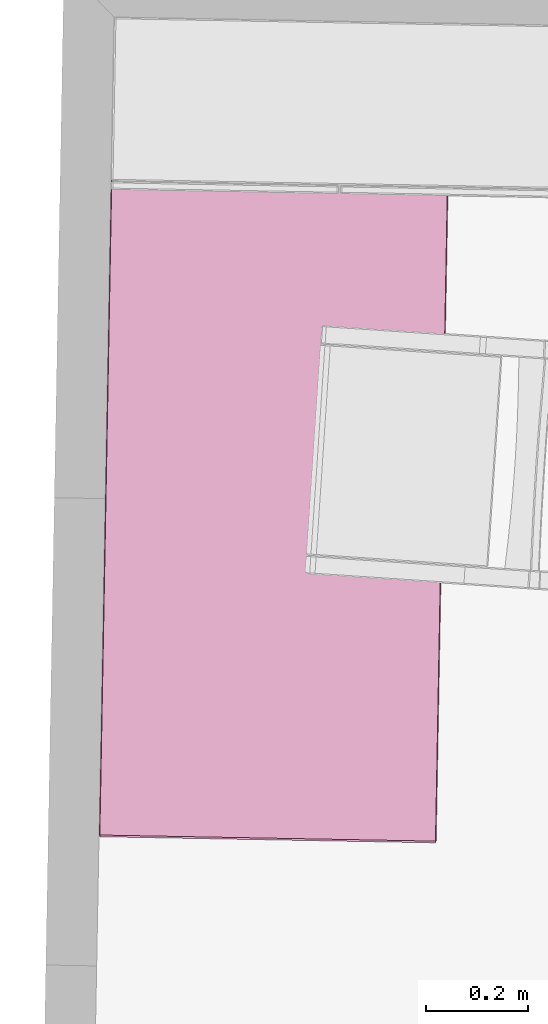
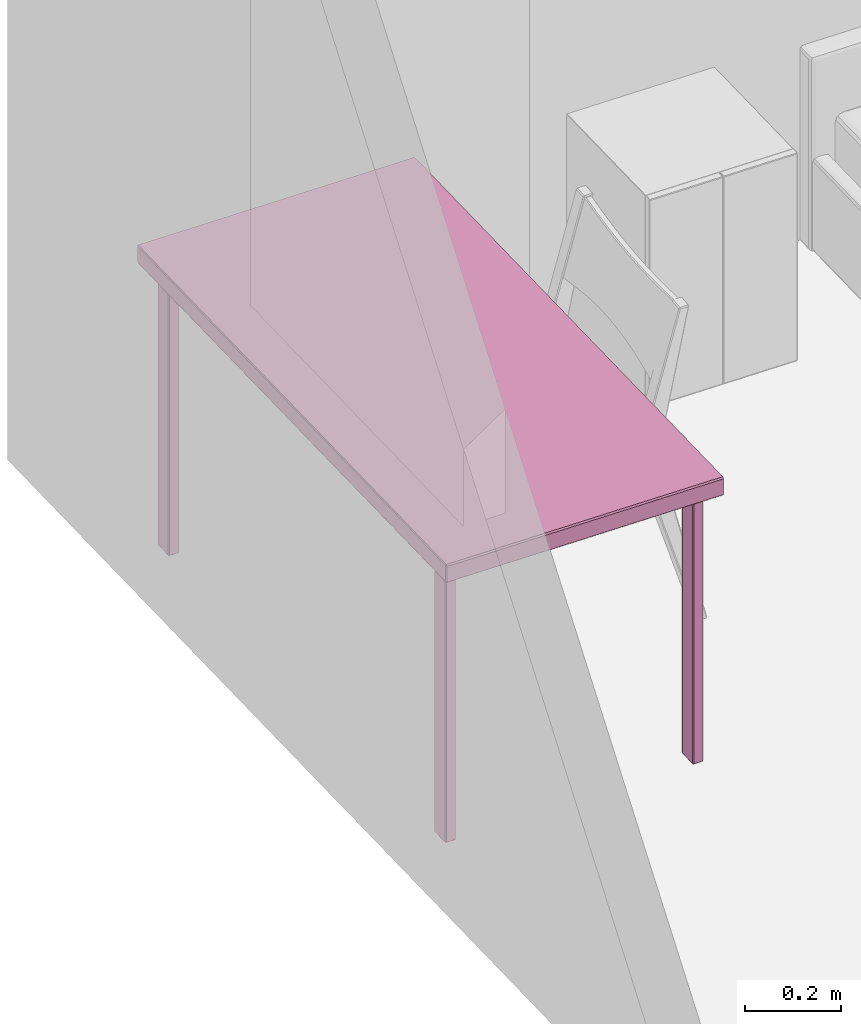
# One storey, part 3 of 9: 1 furnishing.
"""IFC2X3 building model written with IfcOpenShell, lengths in metres."""

from ifc_helpers import new_model, si_unit, frame, origin_with_axes, place, context, project, spatial, faceted_brep, type_object, element, save


model = new_model("IFC2X3")

# Units and contexts
model_context = context("Model", 3, precision=1e-05, world=origin_with_axes())
ifc_project = project(units=[si_unit("AREAUNIT", "SQUARE_METRE"), si_unit("LENGTHUNIT", "METRE")], contexts=[model_context])

# Site, building, storey, space
site_placement = place(None, origin_with_axes())
site = spatial("IfcSite", under=ifc_project, at=site_placement, Name="Site", CompositionType="ELEMENT")
building_placement = place(site_placement, origin_with_axes())
building = spatial("IfcBuilding", under=site, at=building_placement, Name="Building", CompositionType="ELEMENT")
storey_placement = place(building_placement, frame((0.0, 0.0, 5.74363407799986), z_axis=(0.0, 0.0, 1.0), x_axis=(1.0, 0.0, 0.0)))
storey = spatial("IfcBuildingStorey", under=building, at=storey_placement, Name="Story 2", CompositionType="ELEMENT", Elevation=5.7436338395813)
space_placement = place(storey_placement, frame((-6.7996530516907, -0.801034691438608, 0.0), z_axis=(0.0, 0.0, 1.0), x_axis=(1.0, 0.0, 0.0)))
space = spatial("IfcSpace", under=storey, at=space_placement, Name="010", CompositionType="ELEMENT", InteriorOrExteriorSpace="INTERNAL")

# Furnishing
furniture_type = type_object("IfcFurnitureType", Name="a38ef82e-2b45-42b0-add8-bba51ac43364")
furnishing_placement = place(space_placement, frame((-0.477446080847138, 2.51847124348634, 0.373691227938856), z_axis=(0.0, 0.0, 0.999999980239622), x_axis=(0.999834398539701, -0.0181982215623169, 0.0)))
element("IfcFurnishingElement", 1, at=furnishing_placement, inside=space, type_object=furniture_type, Name="Table", ObjectType="Table", context=model_context, shape_type="Brep", body=[
    faceted_brep([(0.3306, 0.6695, 0.3303), (-0.3306, 0.6695, 0.3303), (0.3306, 0.6695, 0.3704), (-0.3306, 0.6695, 0.3704), (0.3306, 0.6695, 0.3704), (-0.3306, 0.6695, 0.3303), (0.2834, -0.6199, 0.3387), (0.2834, -0.576, 0.3387), (0.2834, -0.6199, -0.3704), (0.2834, -0.576, -0.3704), (0.2834, -0.6199, -0.3704), (0.2834, -0.576, 0.3387), (0.3068, -0.6232, 0.3387), (0.2851, -0.6232, 0.3387), (0.3068, -0.6232, -0.3704), (0.285, -0.6232, -0.3704), (0.3068, -0.6232, -0.3704), (0.2851, -0.6232, 0.3387), (0.3085, -0.576, 0.3387), (0.3085, -0.6199, 0.3387), (0.3085, -0.576, -0.3704), (0.3085, -0.6199, -0.3704), (0.3085, -0.576, -0.3704), (0.3085, -0.6199, 0.3387), (0.2851, -0.5726, 0.3387), (0.3068, -0.5726, 0.3387), (0.285, -0.5726, -0.3704), (0.3068, -0.5726, -0.3704), (0.285, -0.5726, -0.3704), (0.3068, -0.5726, 0.3387), (0.2834, 0.6199, 0.3387), (0.2834, 0.6199, -0.3704), (0.2834, 0.5759, 0.3387), (0.2834, 0.5759, -0.3704), (0.2834, 0.5759, 0.3387), (0.2834, 0.6199, -0.3704), (0.3068, 0.6232, 0.3387), (0.3068, 0.6232, -0.3704), (0.2851, 0.6232, 0.3387), (0.285, 0.6232, -0.3704), (0.2851, 0.6232, 0.3387), (0.3068, 0.6232, -0.3704), (0.3085, 0.5759, 0.3387), (0.3085, 0.5759, -0.3704), (0.3085, 0.6199, 0.3387), (0.3085, 0.6199, -0.3704), (0.3085, 0.6199, 0.3387), (0.3085, 0.5759, -0.3704), (0.2851, 0.5726, 0.3387), (0.285, 0.5726, -0.3704), (0.3068, 0.5726, 0.3387), (0.3068, 0.5726, -0.3704), (0.3068, 0.5726, 0.3387), (0.285, 0.5726, -0.3704), (0.3322, 0.6661, 0.3303), (0.3322, 0.6661, 0.3704), (0.3322, -0.6661, 0.3303), (0.3322, -0.6661, 0.3704), (0.3322, -0.6661, 0.3303), (0.3322, 0.6661, 0.3704), (-0.3322, 0.6661, 0.3704), (-0.3322, 0.6661, 0.3303), (-0.3322, -0.6661, 0.3704), (-0.3322, -0.6661, 0.3303), (-0.3322, -0.6661, 0.3704), (-0.3322, 0.6661, 0.3303), (-0.2834, -0.6199, 0.3387), (-0.2834, -0.6199, -0.3704), (-0.2834, -0.576, 0.3387), (-0.2834, -0.576, -0.3704), (-0.2834, -0.576, 0.3387), (-0.2834, -0.6199, -0.3704), (-0.3068, -0.6232, 0.3387), (-0.3068, -0.6232, -0.3704), (-0.285, -0.6232, 0.3387), (-0.285, -0.6232, -0.3704), (-0.285, -0.6232, 0.3387), (-0.3068, -0.6232, -0.3704), (-0.3085, -0.576, 0.3387), (-0.3085, -0.576, -0.3704), (-0.3085, -0.6199, 0.3387), (-0.3085, -0.6199, -0.3704), (-0.3085, -0.6199, 0.3387), (-0.3085, -0.576, -0.3704), (-0.285, -0.5726, 0.3387), (-0.285, -0.5726, -0.3704), (-0.3068, -0.5726, 0.3387), (-0.3068, -0.5726, -0.3704), (-0.3068, -0.5726, 0.3387), (-0.285, -0.5726, -0.3704), (-0.2834, 0.6199, 0.3387), (-0.2834, 0.5759, 0.3387), (-0.2834, 0.6199, -0.3704), (-0.2834, 0.5759, -0.3704), (-0.2834, 0.6199, -0.3704), (-0.2834, 0.5759, 0.3387), (-0.3068, 0.6232, 0.3387), (-0.285, 0.6232, 0.3387), (-0.3068, 0.6232, -0.3704), (-0.285, 0.6232, -0.3704), (-0.3068, 0.6232, -0.3704), (-0.285, 0.6232, 0.3387), (-0.3085, 0.5759, 0.3387), (-0.3085, 0.6199, 0.3387), (-0.3085, 0.5759, -0.3704), (-0.3085, 0.6199, -0.3704), (-0.3085, 0.5759, -0.3704), (-0.3085, 0.6199, 0.3387), (-0.285, 0.5726, 0.3387), (-0.3068, 0.5726, 0.3387), (-0.285, 0.5726, -0.3704), (-0.3068, 0.5726, -0.3704), (-0.285, 0.5726, -0.3704), (-0.3068, 0.5726, 0.3387), (-0.3306, 0.6661, 0.3737), (-0.3306, -0.6661, 0.3737), (0.3306, 0.6661, 0.3737), (0.3306, -0.6661, 0.3737), (0.3306, 0.6661, 0.3737), (-0.3306, -0.6661, 0.3737), (0.3306, -0.6695, 0.3303), (0.3306, -0.6695, 0.3704), (-0.3306, -0.6695, 0.3303), (-0.3306, -0.6695, 0.3704), (-0.3306, -0.6695, 0.3303), (0.3306, -0.6695, 0.3704), (0.3306, -0.6661, 0.327), (-0.3306, -0.6661, 0.327), (0.3306, 0.6661, 0.327), (-0.3306, 0.6661, 0.327), (0.3306, 0.6661, 0.327), (-0.3306, -0.6661, 0.327), (0.3068, -0.6199, 0.342), (0.3068, -0.576, 0.342), (0.2851, -0.6199, 0.342), (0.2851, -0.576, 0.342), (0.2851, -0.6199, 0.342), (0.3068, -0.576, 0.342), (0.3068, -0.576, -0.3737), (0.3068, -0.6199, -0.3737), (0.285, -0.576, -0.3737), (0.285, -0.6199, -0.3737), (0.285, -0.576, -0.3737), (0.3068, -0.6199, -0.3737), (0.3068, 0.6199, -0.3737), (0.3068, 0.5759, -0.3737), (0.285, 0.6199, -0.3737), (0.285, 0.5759, -0.3737), (0.285, 0.6199, -0.3737), (0.3068, 0.5759, -0.3737), (0.3068, 0.5759, 0.342), (0.3068, 0.6199, 0.342), (0.2851, 0.5759, 0.342), (0.2851, 0.6199, 0.342), (0.2851, 0.5759, 0.342), (0.3068, 0.6199, 0.342), (-0.3068, -0.6199, -0.3737), (-0.3068, -0.576, -0.3737), (-0.285, -0.6199, -0.3737), (-0.285, -0.576, -0.3737), (-0.285, -0.6199, -0.3737), (-0.3068, -0.576, -0.3737), (-0.3068, -0.576, 0.342), (-0.3068, -0.6199, 0.342), (-0.285, -0.576, 0.342), (-0.285, -0.6199, 0.342), (-0.285, -0.576, 0.342), (-0.3068, -0.6199, 0.342), (-0.3068, 0.6199, 0.342), (-0.3068, 0.5759, 0.342), (-0.285, 0.6199, 0.342), (-0.285, 0.5759, 0.342), (-0.285, 0.6199, 0.342), (-0.3068, 0.5759, 0.342), (-0.3068, 0.5759, -0.3737), (-0.3068, 0.6199, -0.3737), (-0.285, 0.5759, -0.3737), (-0.285, 0.6199, -0.3737), (-0.285, 0.5759, -0.3737), (-0.3068, 0.6199, -0.3737), (-0.3306, 0.6661, 0.3737), (-0.3306, 0.6695, 0.3704), (-0.3322, 0.6661, 0.3704), (0.285, -0.576, -0.3737), (0.2834, -0.576, -0.3704), (0.285, -0.5726, -0.3704), (0.285, -0.6199, -0.3737), (0.285, -0.6232, -0.3704), (0.2834, -0.6199, -0.3704), (0.3068, -0.6199, -0.3737), (0.3085, -0.6199, -0.3704), (0.3068, -0.6232, -0.3704), (0.3068, -0.576, -0.3737), (0.3068, -0.5726, -0.3704), (0.3085, -0.576, -0.3704), (0.2851, -0.576, 0.342), (0.2851, -0.5726, 0.3387), (0.2834, -0.576, 0.3387), (0.285, 0.5726, -0.3704), (0.2834, 0.5759, -0.3704), (0.285, 0.5759, -0.3737), (0.2851, 0.6199, 0.342), (0.2851, 0.6232, 0.3387), (0.2834, 0.6199, 0.3387), (0.3068, 0.6199, 0.342), (0.3085, 0.6199, 0.3387), (0.3068, 0.6232, 0.3387), (0.3068, 0.5759, 0.342), (0.3068, 0.5726, 0.3387), (0.3085, 0.5759, 0.3387), (0.3306, -0.6695, 0.3704), (0.3322, -0.6661, 0.3704), (0.3306, -0.6661, 0.3737), (0.3306, 0.6661, 0.3737), (0.3322, 0.6661, 0.3704), (0.3306, 0.6695, 0.3704), (-0.3306, -0.6695, 0.3303), (-0.3322, -0.6661, 0.3303), (-0.3306, -0.6661, 0.327), (-0.3306, 0.6661, 0.327), (-0.3322, 0.6661, 0.3303), (-0.3306, 0.6695, 0.3303), (-0.285, -0.5726, -0.3704), (-0.2834, -0.576, -0.3704), (-0.285, -0.576, -0.3737), (-0.285, -0.6199, 0.342), (-0.285, -0.6232, 0.3387), (-0.2834, -0.6199, 0.3387), (-0.3068, -0.6199, 0.342), (-0.3085, -0.6199, 0.3387), (-0.3068, -0.6232, 0.3387), (-0.3068, -0.576, 0.342), (-0.3068, -0.5726, 0.3387), (-0.3085, -0.576, 0.3387), (-0.285, 0.5759, -0.3737), (-0.2834, 0.5759, -0.3704), (-0.285, 0.5726, -0.3704), (-0.285, 0.6199, -0.3737), (-0.285, 0.6232, -0.3704), (-0.2834, 0.6199, -0.3704), (-0.3068, 0.6199, -0.3737), (-0.3085, 0.6199, -0.3704), (-0.3068, 0.6232, -0.3704), (-0.3068, 0.5759, -0.3737), (-0.3068, 0.5726, -0.3704), (-0.3085, 0.5759, -0.3704), (-0.285, 0.5759, 0.342), (-0.285, 0.5726, 0.3387), (-0.2834, 0.5759, 0.3387), (-0.3306, -0.6695, 0.3704), (-0.3306, -0.6661, 0.3737), (-0.3322, -0.6661, 0.3704), (0.3306, -0.6695, 0.3303), (0.3306, -0.6661, 0.327), (0.3322, -0.6661, 0.3303), (0.3322, 0.6661, 0.3303), (0.3306, 0.6661, 0.327), (0.3306, 0.6695, 0.3303), (0.3068, -0.5726, 0.3387), (0.3068, -0.576, 0.342), (0.3085, -0.576, 0.3387), (0.3085, -0.6199, 0.3387), (0.3068, -0.6199, 0.342), (0.3068, -0.6232, 0.3387), (0.2851, -0.6232, 0.3387), (0.2851, -0.6199, 0.342), (0.2834, -0.6199, 0.3387), (0.3068, 0.5726, -0.3704), (0.3068, 0.5759, -0.3737), (0.3085, 0.5759, -0.3704), (0.3085, 0.6199, -0.3704), (0.3068, 0.6199, -0.3737), (0.3068, 0.6232, -0.3704), (0.285, 0.6232, -0.3704), (0.285, 0.6199, -0.3737), (0.2834, 0.6199, -0.3704), (0.2851, 0.5726, 0.3387), (0.2851, 0.5759, 0.342), (0.2834, 0.5759, 0.3387), (-0.3068, -0.5726, -0.3704), (-0.3068, -0.576, -0.3737), (-0.3085, -0.576, -0.3704), (-0.3085, -0.6199, -0.3704), (-0.3068, -0.6199, -0.3737), (-0.3068, -0.6232, -0.3704), (-0.285, -0.6232, -0.3704), (-0.285, -0.6199, -0.3737), (-0.2834, -0.6199, -0.3704), (-0.285, -0.5726, 0.3387), (-0.285, -0.576, 0.342), (-0.2834, -0.576, 0.3387), (-0.3068, 0.5726, 0.3387), (-0.3068, 0.5759, 0.342), (-0.3085, 0.5759, 0.3387), (-0.3085, 0.6199, 0.3387), (-0.3068, 0.6199, 0.342), (-0.3068, 0.6232, 0.3387), (-0.285, 0.6232, 0.3387), (-0.285, 0.6199, 0.342), (-0.2834, 0.6199, 0.3387), (-0.3306, 0.6695, 0.3704), (-0.3306, 0.6695, 0.3303), (-0.3322, 0.6661, 0.3704), (-0.3322, 0.6661, 0.3303), (-0.3322, 0.6661, 0.3704), (-0.3306, 0.6695, 0.3303), (-0.3306, 0.6695, 0.3303), (0.3306, 0.6695, 0.3303), (-0.3306, 0.6661, 0.327), (0.3306, 0.6661, 0.327), (-0.3306, 0.6661, 0.327), (0.3306, 0.6695, 0.3303), (0.3306, 0.6695, 0.3303), (0.3306, 0.6695, 0.3704), (0.3322, 0.6661, 0.3303), (0.3322, 0.6661, 0.3704), (0.3322, 0.6661, 0.3303), (0.3306, 0.6695, 0.3704), (0.3306, 0.6695, 0.3704), (-0.3306, 0.6695, 0.3704), (0.3306, 0.6661, 0.3737), (-0.3306, 0.6661, 0.3737), (0.3306, 0.6661, 0.3737), (-0.3306, 0.6695, 0.3704), (0.2834, -0.576, -0.3704), (0.2834, -0.576, 0.3387), (0.285, -0.5726, -0.3704), (0.2851, -0.5726, 0.3387), (0.285, -0.5726, -0.3704), (0.2834, -0.576, 0.3387), (0.2834, -0.576, 0.3387), (0.2834, -0.6199, 0.3387), (0.2851, -0.576, 0.342), (0.2851, -0.6199, 0.342), (0.2851, -0.576, 0.342), (0.2834, -0.6199, 0.3387), (0.2834, -0.6199, 0.3387), (0.2834, -0.6199, -0.3704), (0.2851, -0.6232, 0.3387), (0.285, -0.6232, -0.3704), (0.2851, -0.6232, 0.3387), (0.2834, -0.6199, -0.3704), (0.2834, -0.6199, -0.3704), (0.2834, -0.576, -0.3704), (0.285, -0.6199, -0.3737), (0.285, -0.576, -0.3737), (0.285, -0.6199, -0.3737), (0.2834, -0.576, -0.3704), (0.2851, -0.6232, 0.3387), (0.3068, -0.6232, 0.3387), (0.2851, -0.6199, 0.342), (0.3068, -0.6199, 0.342), (0.2851, -0.6199, 0.342), (0.3068, -0.6232, 0.3387), (0.3068, -0.6232, 0.3387), (0.3068, -0.6232, -0.3704), (0.3085, -0.6199, 0.3387), (0.3085, -0.6199, -0.3704), (0.3085, -0.6199, 0.3387), (0.3068, -0.6232, -0.3704), (0.3068, -0.6232, -0.3704), (0.285, -0.6232, -0.3704), (0.3068, -0.6199, -0.3737), (0.285, -0.6199, -0.3737), (0.3068, -0.6199, -0.3737), (0.285, -0.6232, -0.3704), (0.3085, -0.6199, 0.3387), (0.3085, -0.576, 0.3387), (0.3068, -0.6199, 0.342), (0.3068, -0.576, 0.342), (0.3068, -0.6199, 0.342), (0.3085, -0.576, 0.3387), (0.3085, -0.576, 0.3387), (0.3085, -0.576, -0.3704), (0.3068, -0.5726, 0.3387), (0.3068, -0.5726, -0.3704), (0.3068, -0.5726, 0.3387), (0.3085, -0.576, -0.3704), (0.3085, -0.576, -0.3704), (0.3085, -0.6199, -0.3704), (0.3068, -0.576, -0.3737), (0.3068, -0.6199, -0.3737), (0.3068, -0.576, -0.3737), (0.3085, -0.6199, -0.3704), (0.3068, -0.5726, 0.3387), (0.2851, -0.5726, 0.3387), (0.3068, -0.576, 0.342), (0.2851, -0.576, 0.342), (0.3068, -0.576, 0.342), (0.2851, -0.5726, 0.3387), (0.285, -0.5726, -0.3704), (0.3068, -0.5726, -0.3704), (0.285, -0.576, -0.3737), (0.3068, -0.576, -0.3737), (0.285, -0.576, -0.3737), (0.3068, -0.5726, -0.3704), (0.2834, 0.5759, -0.3704), (0.2834, 0.6199, -0.3704), (0.285, 0.5759, -0.3737), (0.285, 0.6199, -0.3737), (0.285, 0.5759, -0.3737), (0.2834, 0.6199, -0.3704), (0.2834, 0.6199, -0.3704), (0.2834, 0.6199, 0.3387), (0.285, 0.6232, -0.3704), (0.2851, 0.6232, 0.3387), (0.285, 0.6232, -0.3704), (0.2834, 0.6199, 0.3387), (0.2834, 0.6199, 0.3387), (0.2834, 0.5759, 0.3387), (0.2851, 0.6199, 0.342), (0.2851, 0.5759, 0.342), (0.2851, 0.6199, 0.342), (0.2834, 0.5759, 0.3387), (0.2834, 0.5759, 0.3387), (0.2834, 0.5759, -0.3704), (0.2851, 0.5726, 0.3387), (0.285, 0.5726, -0.3704), (0.2851, 0.5726, 0.3387), (0.2834, 0.5759, -0.3704), (0.285, 0.6232, -0.3704), (0.3068, 0.6232, -0.3704), (0.285, 0.6199, -0.3737), (0.3068, 0.6199, -0.3737), (0.285, 0.6199, -0.3737), (0.3068, 0.6232, -0.3704), (0.3068, 0.6232, -0.3704), (0.3068, 0.6232, 0.3387), (0.3085, 0.6199, -0.3704), (0.3085, 0.6199, 0.3387), (0.3085, 0.6199, -0.3704), (0.3068, 0.6232, 0.3387), (0.3068, 0.6232, 0.3387), (0.2851, 0.6232, 0.3387), (0.3068, 0.6199, 0.342), (0.2851, 0.6199, 0.342), (0.3068, 0.6199, 0.342), (0.2851, 0.6232, 0.3387), (0.3085, 0.6199, -0.3704), (0.3085, 0.5759, -0.3704), (0.3068, 0.6199, -0.3737), (0.3068, 0.5759, -0.3737), (0.3068, 0.6199, -0.3737), (0.3085, 0.5759, -0.3704), (0.3085, 0.5759, -0.3704), (0.3085, 0.5759, 0.3387), (0.3068, 0.5726, -0.3704), (0.3068, 0.5726, 0.3387), (0.3068, 0.5726, -0.3704), (0.3085, 0.5759, 0.3387), (0.3085, 0.5759, 0.3387), (0.3085, 0.6199, 0.3387), (0.3068, 0.5759, 0.342), (0.3068, 0.6199, 0.342), (0.3068, 0.5759, 0.342), (0.3085, 0.6199, 0.3387), (0.3068, 0.5726, -0.3704), (0.285, 0.5726, -0.3704), (0.3068, 0.5759, -0.3737), (0.285, 0.5759, -0.3737), (0.3068, 0.5759, -0.3737), (0.285, 0.5726, -0.3704), (0.2851, 0.5726, 0.3387), (0.3068, 0.5726, 0.3387), (0.2851, 0.5759, 0.342), (0.3068, 0.5759, 0.342), (0.2851, 0.5759, 0.342), (0.3068, 0.5726, 0.3387), (0.3322, -0.6661, 0.3704), (0.3322, 0.6661, 0.3704), (0.3306, -0.6661, 0.3737), (0.3306, 0.6661, 0.3737), (0.3306, -0.6661, 0.3737), (0.3322, 0.6661, 0.3704), (0.3322, 0.6661, 0.3303), (0.3322, -0.6661, 0.3303), (0.3306, 0.6661, 0.327), (0.3306, -0.6661, 0.327), (0.3306, 0.6661, 0.327), (0.3322, -0.6661, 0.3303), (0.3322, -0.6661, 0.3303), (0.3322, -0.6661, 0.3704), (0.3306, -0.6695, 0.3303), (0.3306, -0.6695, 0.3704), (0.3306, -0.6695, 0.3303), (0.3322, -0.6661, 0.3704), (-0.3322, -0.6661, 0.3303), (-0.3322, 0.6661, 0.3303), (-0.3306, -0.6661, 0.327), (-0.3306, 0.6661, 0.327), (-0.3306, -0.6661, 0.327), (-0.3322, 0.6661, 0.3303), (-0.3322, 0.6661, 0.3704), (-0.3322, -0.6661, 0.3704), (-0.3306, 0.6661, 0.3737), (-0.3306, -0.6661, 0.3737), (-0.3306, 0.6661, 0.3737), (-0.3322, -0.6661, 0.3704), (-0.3322, -0.6661, 0.3704), (-0.3322, -0.6661, 0.3303), (-0.3306, -0.6695, 0.3704), (-0.3306, -0.6695, 0.3303), (-0.3306, -0.6695, 0.3704), (-0.3322, -0.6661, 0.3303), (-0.2834, -0.576, -0.3704), (-0.2834, -0.6199, -0.3704), (-0.285, -0.576, -0.3737), (-0.285, -0.6199, -0.3737), (-0.285, -0.576, -0.3737), (-0.2834, -0.6199, -0.3704), (-0.2834, -0.6199, -0.3704), (-0.2834, -0.6199, 0.3387), (-0.285, -0.6232, -0.3704), (-0.285, -0.6232, 0.3387), (-0.285, -0.6232, -0.3704), (-0.2834, -0.6199, 0.3387), (-0.2834, -0.6199, 0.3387), (-0.2834, -0.576, 0.3387), (-0.285, -0.6199, 0.342), (-0.285, -0.576, 0.342), (-0.285, -0.6199, 0.342), (-0.2834, -0.576, 0.3387), (-0.2834, -0.576, 0.3387), (-0.2834, -0.576, -0.3704), (-0.285, -0.5726, 0.3387), (-0.285, -0.5726, -0.3704), (-0.285, -0.5726, 0.3387), (-0.2834, -0.576, -0.3704), (-0.285, -0.6232, -0.3704), (-0.3068, -0.6232, -0.3704), (-0.285, -0.6199, -0.3737), (-0.3068, -0.6199, -0.3737), (-0.285, -0.6199, -0.3737), (-0.3068, -0.6232, -0.3704), (-0.3068, -0.6232, -0.3704), (-0.3068, -0.6232, 0.3387), (-0.3085, -0.6199, -0.3704), (-0.3085, -0.6199, 0.3387), (-0.3085, -0.6199, -0.3704), (-0.3068, -0.6232, 0.3387), (-0.3068, -0.6232, 0.3387), (-0.285, -0.6232, 0.3387), (-0.3068, -0.6199, 0.342), (-0.285, -0.6199, 0.342), (-0.3068, -0.6199, 0.342), (-0.285, -0.6232, 0.3387), (-0.3085, -0.6199, -0.3704), (-0.3085, -0.576, -0.3704), (-0.3068, -0.6199, -0.3737), (-0.3068, -0.576, -0.3737), (-0.3068, -0.6199, -0.3737), (-0.3085, -0.576, -0.3704), (-0.3085, -0.576, -0.3704), (-0.3085, -0.576, 0.3387), (-0.3068, -0.5726, -0.3704), (-0.3068, -0.5726, 0.3387), (-0.3068, -0.5726, -0.3704), (-0.3085, -0.576, 0.3387), (-0.3085, -0.576, 0.3387), (-0.3085, -0.6199, 0.3387), (-0.3068, -0.576, 0.342), (-0.3068, -0.6199, 0.342), (-0.3068, -0.576, 0.342), (-0.3085, -0.6199, 0.3387), (-0.3068, -0.5726, -0.3704), (-0.285, -0.5726, -0.3704), (-0.3068, -0.576, -0.3737), (-0.285, -0.576, -0.3737), (-0.3068, -0.576, -0.3737), (-0.285, -0.5726, -0.3704), (-0.285, -0.5726, 0.3387), (-0.3068, -0.5726, 0.3387), (-0.285, -0.576, 0.342), (-0.3068, -0.576, 0.342), (-0.285, -0.576, 0.342), (-0.3068, -0.5726, 0.3387), (-0.2834, 0.5759, -0.3704), (-0.2834, 0.5759, 0.3387), (-0.285, 0.5726, -0.3704), (-0.285, 0.5726, 0.3387), (-0.285, 0.5726, -0.3704), (-0.2834, 0.5759, 0.3387), (-0.2834, 0.5759, 0.3387), (-0.2834, 0.6199, 0.3387), (-0.285, 0.5759, 0.342), (-0.285, 0.6199, 0.342), (-0.285, 0.5759, 0.342), (-0.2834, 0.6199, 0.3387), (-0.2834, 0.6199, 0.3387), (-0.2834, 0.6199, -0.3704), (-0.285, 0.6232, 0.3387), (-0.285, 0.6232, -0.3704), (-0.285, 0.6232, 0.3387), (-0.2834, 0.6199, -0.3704), (-0.2834, 0.6199, -0.3704), (-0.2834, 0.5759, -0.3704), (-0.285, 0.6199, -0.3737), (-0.285, 0.5759, -0.3737), (-0.285, 0.6199, -0.3737), (-0.2834, 0.5759, -0.3704), (-0.285, 0.6232, 0.3387), (-0.3068, 0.6232, 0.3387), (-0.285, 0.6199, 0.342), (-0.3068, 0.6199, 0.342), (-0.285, 0.6199, 0.342), (-0.3068, 0.6232, 0.3387), (-0.3068, 0.6232, 0.3387), (-0.3068, 0.6232, -0.3704), (-0.3085, 0.6199, 0.3387), (-0.3085, 0.6199, -0.3704), (-0.3085, 0.6199, 0.3387), (-0.3068, 0.6232, -0.3704), (-0.3068, 0.6232, -0.3704), (-0.285, 0.6232, -0.3704), (-0.3068, 0.6199, -0.3737), (-0.285, 0.6199, -0.3737), (-0.3068, 0.6199, -0.3737), (-0.285, 0.6232, -0.3704), (-0.3085, 0.6199, 0.3387), (-0.3085, 0.5759, 0.3387), (-0.3068, 0.6199, 0.342), (-0.3068, 0.5759, 0.342), (-0.3068, 0.6199, 0.342), (-0.3085, 0.5759, 0.3387), (-0.3085, 0.5759, 0.3387), (-0.3085, 0.5759, -0.3704), (-0.3068, 0.5726, 0.3387), (-0.3068, 0.5726, -0.3704), (-0.3068, 0.5726, 0.3387), (-0.3085, 0.5759, -0.3704), (-0.3085, 0.5759, -0.3704), (-0.3085, 0.6199, -0.3704), (-0.3068, 0.5759, -0.3737), (-0.3068, 0.6199, -0.3737), (-0.3068, 0.5759, -0.3737), (-0.3085, 0.6199, -0.3704), (-0.3068, 0.5726, 0.3387), (-0.285, 0.5726, 0.3387), (-0.3068, 0.5759, 0.342), (-0.285, 0.5759, 0.342), (-0.3068, 0.5759, 0.342), (-0.285, 0.5726, 0.3387), (-0.285, 0.5726, -0.3704), (-0.3068, 0.5726, -0.3704), (-0.285, 0.5759, -0.3737), (-0.3068, 0.5759, -0.3737), (-0.285, 0.5759, -0.3737), (-0.3068, 0.5726, -0.3704), (0.3306, -0.6661, 0.3737), (-0.3306, -0.6661, 0.3737), (0.3306, -0.6695, 0.3704), (-0.3306, -0.6695, 0.3704), (0.3306, -0.6695, 0.3704), (-0.3306, -0.6661, 0.3737), (0.3306, -0.6695, 0.3303), (-0.3306, -0.6695, 0.3303), (0.3306, -0.6661, 0.327), (-0.3306, -0.6661, 0.327), (0.3306, -0.6661, 0.327), (-0.3306, -0.6695, 0.3303)], [[[0, 1, 2]], [[3, 4, 5]], [[6, 7, 8]], [[9, 10, 11]], [[12, 13, 14]], [[15, 16, 17]], [[18, 19, 20]], [[21, 22, 23]], [[24, 25, 26]], [[27, 28, 29]], [[30, 31, 32]], [[33, 34, 35]], [[36, 37, 38]], [[39, 40, 41]], [[42, 43, 44]], [[45, 46, 47]], [[48, 49, 50]], [[51, 52, 53]], [[54, 55, 56]], [[57, 58, 59]], [[60, 61, 62]], [[63, 64, 65]], [[66, 67, 68]], [[69, 70, 71]], [[72, 73, 74]], [[75, 76, 77]], [[78, 79, 80]], [[81, 82, 83]], [[84, 85, 86]], [[87, 88, 89]], [[90, 91, 92]], [[93, 94, 95]], [[96, 97, 98]], [[99, 100, 101]], [[102, 103, 104]], [[105, 106, 107]], [[108, 109, 110]], [[111, 112, 113]], [[114, 115, 116]], [[117, 118, 119]], [[120, 121, 122]], [[123, 124, 125]], [[126, 127, 128]], [[129, 130, 131]], [[132, 133, 134]], [[135, 136, 137]], [[138, 139, 140]], [[141, 142, 143]], [[144, 145, 146]], [[147, 148, 149]], [[150, 151, 152]], [[153, 154, 155]], [[156, 157, 158]], [[159, 160, 161]], [[162, 163, 164]], [[165, 166, 167]], [[168, 169, 170]], [[171, 172, 173]], [[174, 175, 176]], [[177, 178, 179]], [[180, 181, 182]], [[183, 184, 185]], [[186, 187, 188]], [[189, 190, 191]], [[192, 193, 194]], [[195, 196, 197]], [[198, 199, 200]], [[201, 202, 203]], [[204, 205, 206]], [[207, 208, 209]], [[210, 211, 212]], [[213, 214, 215]], [[216, 217, 218]], [[219, 220, 221]], [[222, 223, 224]], [[225, 226, 227]], [[228, 229, 230]], [[231, 232, 233]], [[234, 235, 236]], [[237, 238, 239]], [[240, 241, 242]], [[243, 244, 245]], [[246, 247, 248]], [[249, 250, 251]], [[252, 253, 254]], [[255, 256, 257]], [[258, 259, 260]], [[261, 262, 263]], [[264, 265, 266]], [[267, 268, 269]], [[270, 271, 272]], [[273, 274, 275]], [[276, 277, 278]], [[279, 280, 281]], [[282, 283, 284]], [[285, 286, 287]], [[288, 289, 290]], [[291, 292, 293]], [[294, 295, 296]], [[297, 298, 299]], [[300, 301, 302]], [[303, 304, 305]], [[306, 307, 308]], [[309, 310, 311]], [[312, 313, 314]], [[315, 316, 317]], [[318, 319, 320]], [[321, 322, 323]], [[324, 325, 326]], [[327, 328, 329]], [[330, 331, 332]], [[333, 334, 335]], [[336, 337, 338]], [[339, 340, 341]], [[342, 343, 344]], [[345, 346, 347]], [[348, 349, 350]], [[351, 352, 353]], [[354, 355, 356]], [[357, 358, 359]], [[360, 361, 362]], [[363, 364, 365]], [[366, 367, 368]], [[369, 370, 371]], [[372, 373, 374]], [[375, 376, 377]], [[378, 379, 380]], [[381, 382, 383]], [[384, 385, 386]], [[387, 388, 389]], [[390, 391, 392]], [[393, 394, 395]], [[396, 397, 398]], [[399, 400, 401]], [[402, 403, 404]], [[405, 406, 407]], [[408, 409, 410]], [[411, 412, 413]], [[414, 415, 416]], [[417, 418, 419]], [[420, 421, 422]], [[423, 424, 425]], [[426, 427, 428]], [[429, 430, 431]], [[432, 433, 434]], [[435, 436, 437]], [[438, 439, 440]], [[441, 442, 443]], [[444, 445, 446]], [[447, 448, 449]], [[450, 451, 452]], [[453, 454, 455]], [[456, 457, 458]], [[459, 460, 461]], [[462, 463, 464]], [[465, 466, 467]], [[468, 469, 470]], [[471, 472, 473]], [[474, 475, 476]], [[477, 478, 479]], [[480, 481, 482]], [[483, 484, 485]], [[486, 487, 488]], [[489, 490, 491]], [[492, 493, 494]], [[495, 496, 497]], [[498, 499, 500]], [[501, 502, 503]], [[504, 505, 506]], [[507, 508, 509]], [[510, 511, 512]], [[513, 514, 515]], [[516, 517, 518]], [[519, 520, 521]], [[522, 523, 524]], [[525, 526, 527]], [[528, 529, 530]], [[531, 532, 533]], [[534, 535, 536]], [[537, 538, 539]], [[540, 541, 542]], [[543, 544, 545]], [[546, 547, 548]], [[549, 550, 551]], [[552, 553, 554]], [[555, 556, 557]], [[558, 559, 560]], [[561, 562, 563]], [[564, 565, 566]], [[567, 568, 569]], [[570, 571, 572]], [[573, 574, 575]], [[576, 577, 578]], [[579, 580, 581]], [[582, 583, 584]], [[585, 586, 587]], [[588, 589, 590]], [[591, 592, 593]], [[594, 595, 596]], [[597, 598, 599]], [[600, 601, 602]], [[603, 604, 605]], [[606, 607, 608]], [[609, 610, 611]], [[612, 613, 614]], [[615, 616, 617]], [[618, 619, 620]], [[621, 622, 623]], [[624, 625, 626]], [[627, 628, 629]], [[630, 631, 632]], [[633, 634, 635]], [[636, 637, 638]], [[639, 640, 641]], [[642, 643, 644]], [[645, 646, 647]], [[648, 649, 650]], [[651, 652, 653]], [[654, 655, 656]], [[657, 658, 659]]]),
])

save(model, "model.ifc")
